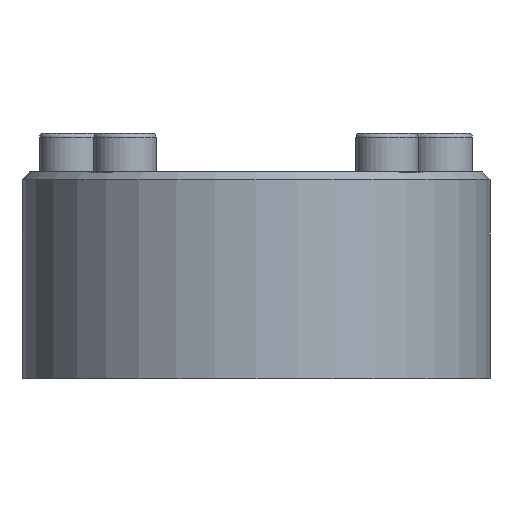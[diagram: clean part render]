
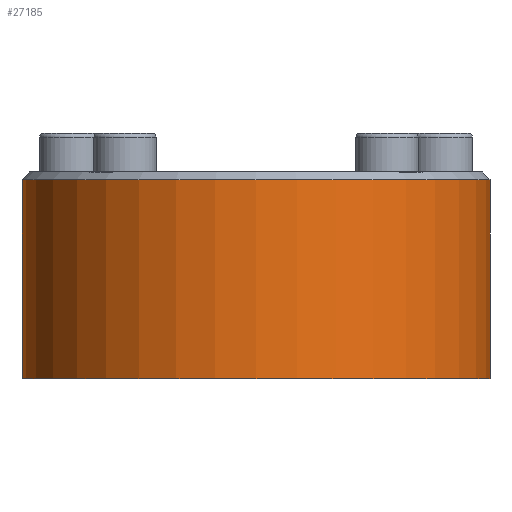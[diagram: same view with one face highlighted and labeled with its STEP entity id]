
A CAD part, front view. The second image highlights one B-rep face of the part: STEP entity #27185.
In plain terms, the highlighted cylindrical face has radius 60 mm (diameter 120 mm), a partial arc.
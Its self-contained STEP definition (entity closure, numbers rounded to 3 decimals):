
#2588=FACE_OUTER_BOUND('',#4048,.T.);
#4048=EDGE_LOOP('',(#17934,#17935,#17936,#17937));
#5694=CIRCLE('',#28648,60.);
#5695=CIRCLE('',#28649,60.);
#5778=LINE('',#34806,#8613);
#5779=LINE('',#34810,#8614);
#8613=VECTOR('',#29757,51.);
#8614=VECTOR('',#29760,51.);
#11448=VERTEX_POINT('',#34804);
#11449=VERTEX_POINT('',#34805);
#11450=VERTEX_POINT('',#34807);
#11451=VERTEX_POINT('',#34809);
#14055=EDGE_CURVE('',#11448,#11449,#5778,.T.);
#14056=EDGE_CURVE('',#11450,#11448,#5694,.T.);
#14057=EDGE_CURVE('',#11451,#11450,#5779,.T.);
#14058=EDGE_CURVE('',#11449,#11451,#5695,.T.);
#17934=ORIENTED_EDGE('',*,*,#14055,.F.);
#17935=ORIENTED_EDGE('',*,*,#14056,.F.);
#17936=ORIENTED_EDGE('',*,*,#14057,.F.);
#17937=ORIENTED_EDGE('',*,*,#14058,.F.);
#25692=CYLINDRICAL_SURFACE('',#28647,60.);
#27185=ADVANCED_FACE('',(#2588),#25692,.T.);
#28647=AXIS2_PLACEMENT_3D('',#34803,#29755,#29756);
#28648=AXIS2_PLACEMENT_3D('',#34808,#29758,#29759);
#28649=AXIS2_PLACEMENT_3D('',#34811,#29761,#29762);
#29755=DIRECTION('center_axis',(0.,0.,
1.));
#29756=DIRECTION('ref_axis',(1.,0.,0.));
#29757=DIRECTION('',(0.,0.,1.));
#29758=DIRECTION('center_axis',(0.,0.,
-1.));
#29759=DIRECTION('ref_axis',(1.,0.,0.));
#29760=DIRECTION('',(0.,0.,-1.));
#29761=DIRECTION('center_axis',(0.,0.,
1.));
#29762=DIRECTION('ref_axis',(-1.,0.,0.));
#34803=CARTESIAN_POINT('Origin',(0.,-180.,-43.25));
#34804=CARTESIAN_POINT('',(-60.,-180.,-43.25));
#34805=CARTESIAN_POINT('',(-60.,-180.,7.75));
#34806=CARTESIAN_POINT('',(-60.,-180.,-43.25));
#34807=CARTESIAN_POINT('',(60.,-180.,-43.25));
#34808=CARTESIAN_POINT('Origin',(0.,-180.,-43.25));
#34809=CARTESIAN_POINT('',(60.,-180.,7.75));
#34810=CARTESIAN_POINT('',(60.,-180.,9.75));
#34811=CARTESIAN_POINT('Origin',(0.,-180.,7.75));
